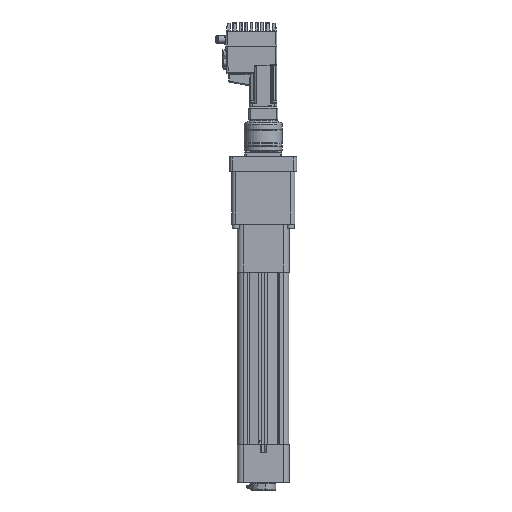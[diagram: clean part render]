
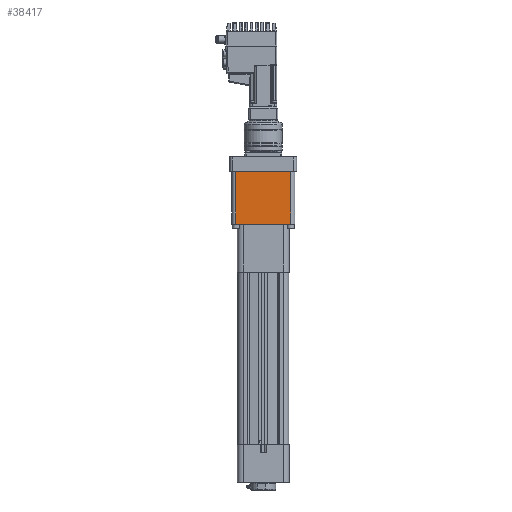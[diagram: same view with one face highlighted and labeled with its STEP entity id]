
A CAD part, left-side view. The second image highlights one B-rep face of the part: STEP entity #38417.
In plain terms, the highlighted planar face has unit normal (-1, 0, 0).
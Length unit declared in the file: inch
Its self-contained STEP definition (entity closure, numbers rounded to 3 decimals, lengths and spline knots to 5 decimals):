
#1772 = DIRECTION ( 'NONE',  ( 1., 0., 0. ) ) ;
#2210 = ORIENTED_EDGE ( 'NONE', *, *, #128433, .F. ) ;
#3291 = VERTEX_POINT ( 'NONE', #80177 ) ;
#10495 = DIRECTION ( 'NONE',  ( 0., 0., -1. ) ) ;
#11809 = FACE_OUTER_BOUND ( 'NONE', #111378, .T. ) ;
#16637 = CARTESIAN_POINT ( 'NONE',  ( -2.8, 2.42, 4.97 ) ) ;
#24884 = ORIENTED_EDGE ( 'NONE', *, *, #59908, .T. ) ;
#25140 = ORIENTED_EDGE ( 'NONE', *, *, #27476, .T. ) ;
#26682 = LINE ( 'NONE', #16637, #108415 ) ;
#27476 = EDGE_CURVE ( 'NONE', #125819, #32242, #95521, .T. ) ;
#32242 = VERTEX_POINT ( 'NONE', #50179 ) ;
#38299 = AXIS2_PLACEMENT_3D ( 'NONE', #102042, #1772, #10495 ) ;
#38417 = ADVANCED_FACE ( 'NONE', ( #11809 ), #52592, .F. ) ;
#50179 = CARTESIAN_POINT ( 'NONE',  ( -2.8, -2.42, 4.25 ) ) ;
#52592 = PLANE ( 'NONE',  #38299 ) ;
#55445 = DIRECTION ( 'NONE',  ( 0., -1., 0. ) ) ;
#59908 = EDGE_CURVE ( 'NONE', #32242, #130854, #115074, .T. ) ;
#60386 = DIRECTION ( 'NONE',  ( 0., 1., 0. ) ) ;
#65408 = VECTOR ( 'NONE', #55445, 39.37008 ) ;
#65637 = VECTOR ( 'NONE', #60386, 39.37008 ) ;
#70414 = LINE ( 'NONE', #111134, #65637 ) ;
#80177 = CARTESIAN_POINT ( 'NONE',  ( -2.8, 2.42, 8.918 ) ) ;
#88136 = DIRECTION ( 'NONE',  ( 0., 0., 1. ) ) ;
#95521 = LINE ( 'NONE', #106203, #65408 ) ;
#96348 = DIRECTION ( 'NONE',  ( 0., 0., 1. ) ) ;
#98235 = CARTESIAN_POINT ( 'NONE',  ( -2.8, 2.42, 4.25 ) ) ;
#98961 = EDGE_CURVE ( 'NONE', #130854, #3291, #70414, .T. ) ;
#102042 = CARTESIAN_POINT ( 'NONE',  ( -2.8, 2.42, 5.07 ) ) ;
#103243 = ORIENTED_EDGE ( 'NONE', *, *, #98961, .T. ) ;
#105724 = CARTESIAN_POINT ( 'NONE',  ( -2.8, -2.42, 4.97 ) ) ;
#106203 = CARTESIAN_POINT ( 'NONE',  ( -2.8, 2.42, 4.25 ) ) ;
#108415 = VECTOR ( 'NONE', #88136, 39.37008 ) ;
#109437 = VECTOR ( 'NONE', #96348, 39.37008 ) ;
#109650 = CARTESIAN_POINT ( 'NONE',  ( -2.8, -2.42, 8.918 ) ) ;
#111134 = CARTESIAN_POINT ( 'NONE',  ( -2.8, 2.8, 8.918 ) ) ;
#111378 = EDGE_LOOP ( 'NONE', ( #25140, #24884, #103243, #2210 ) ) ;
#115074 = LINE ( 'NONE', #105724, #109437 ) ;
#125819 = VERTEX_POINT ( 'NONE', #98235 ) ;
#128433 = EDGE_CURVE ( 'NONE', #125819, #3291, #26682, .T. ) ;
#130854 = VERTEX_POINT ( 'NONE', #109650 ) ;
